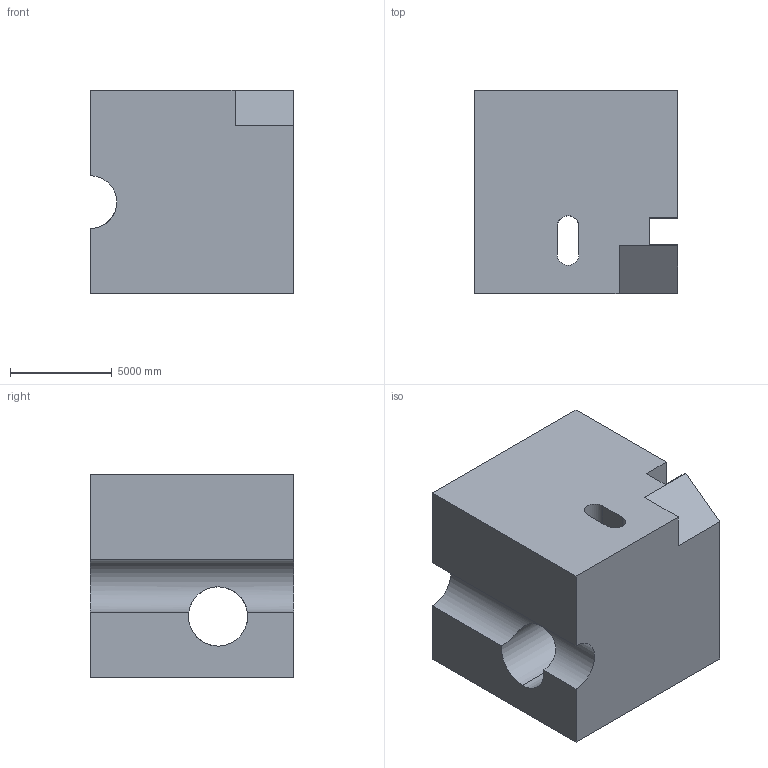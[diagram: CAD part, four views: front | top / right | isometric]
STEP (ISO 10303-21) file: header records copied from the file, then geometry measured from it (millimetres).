
FILE_DESCRIPTION (( 'STEP AP203' ), '1' );
FILE_NAME ('1441.STEP', '2022-08-18T14:29:43', ( 'user' ), ( '' ), 'SwSTEP 2.0', 'SolidWorks 2021', '' );
FILE_SCHEMA (( 'CONFIG_CONTROL_DESIGN' ));
Length unit declared in the file: centimetre
Products named in the file (1): 1441
Bounding box: 10000 x 10000 x 10000 mm (x, y, z)
Volume: 869705491324.2 mm3; surface area: 733834854.4 mm2
Topology: 1 solids, 1 shells, 25 faces, 81 edges, 54 vertices
Faces by surface type: plane 18, cylinder 7
Entity records: 1390 total; most frequent: CARTESIAN_POINT 587, ORIENTED_EDGE 162, DIRECTION 141, EDGE_CURVE 81, LINE 57, VECTOR 57, VERTEX_POINT 54, AXIS2_PLACEMENT_3D 42
